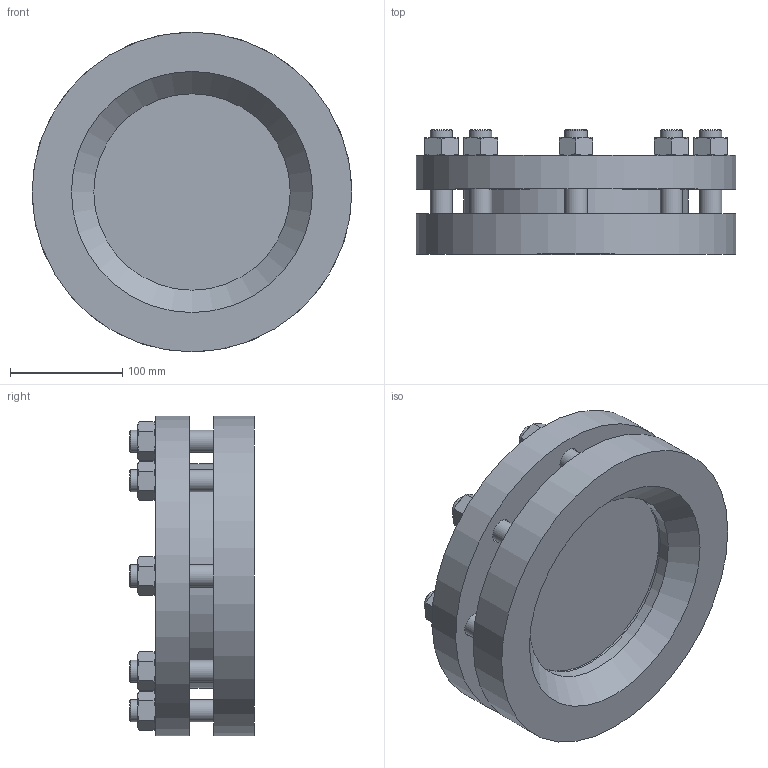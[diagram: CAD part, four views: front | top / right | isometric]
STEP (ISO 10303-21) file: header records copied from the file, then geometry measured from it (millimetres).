
FILE_DESCRIPTION(/* description */ ('Unknown'),/* implementation_level */ '2;1');
FILE_NAME(/* name */ 'Armatur 28120 DN 150 PN16',/* time_stamp */ '2016-08-08T07:30:05+02:00',/* author */ ('Unknown'),/* organization */ ('Unknown'),/* preprocessor_version */ 'ST-DEVELOPER v16.7',/* originating_system */ 'DEX',/* authorisation */ $);
FILE_SCHEMA (('AUTOMOTIVE_DESIGN {1 0 10303 214 3 1 1}'));
Length unit declared in the file: millimetre
Products named in the file (7): 0206.315.38_01; 1345.005.38_01; 0863.179.38_01; 1775.151.38_01; 1346.305.38_01; Stud_DIN_938_1995_FF_M20x1.50x75_v12.00; Nut_DIN_934_1987_M20_v10.50
Assembly tree (21 placements, depth 2):
  0206.315.38_01
    1345.005.38_01
    0863.179.38_01  x2
    1775.151.38_01
    1346.305.38_01
    Stud_DIN_938_1995_FF_M20x1.50x75_v12.00  x8
    Nut_DIN_934_1987_M20_v10.50  x8
Bounding box: 285 x 111 x 285 mm (x, y, z)
Volume: 3514878.6 mm3; surface area: 462278.9 mm2
Topology: 21 solids, 24 shells, 249 faces, 514 edges, 312 vertices
Faces by surface type: plane 95, cone 95, cylinder 59
Full cylindrical faces by diameter (mm): 17.294 x16, 20 x24, 22 x8, 175 x4, 200 x1, 202 x2, 203 x2, 285 x2
Entity records: 2694 total; most frequent: CARTESIAN_POINT 662, DIRECTION 350, ORIENTED_EDGE 182, AXIS2_PLACEMENT_3D 172, FACE_BOUND 165, EDGE_LOOP 154, VERTEX_POINT 96, EDGE_CURVE 91
